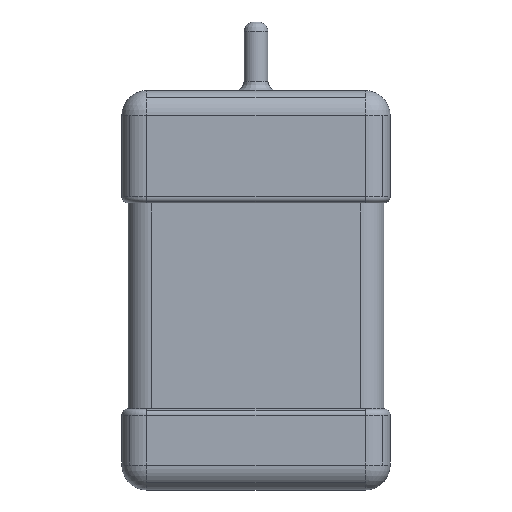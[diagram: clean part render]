
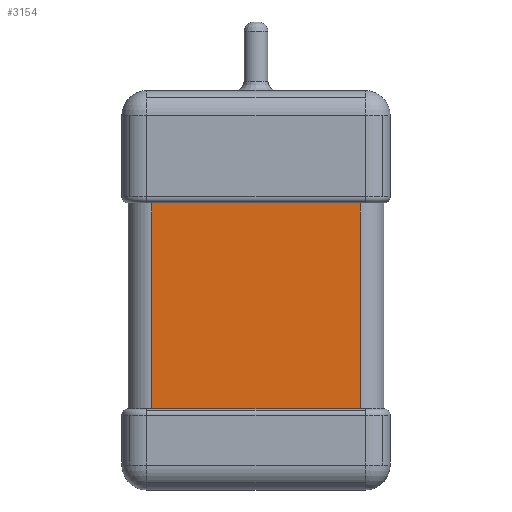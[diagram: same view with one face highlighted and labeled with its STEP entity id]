
A CAD part, front view. The second image highlights one B-rep face of the part: STEP entity #3154.
In plain terms, the highlighted planar face has unit normal (0, -1, 0).
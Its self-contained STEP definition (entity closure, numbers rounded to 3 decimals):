
#151=CARTESIAN_POINT('',(0.287,-0.047,-4.22));
#152=VERTEX_POINT('',#151);
#160=CARTESIAN_POINT('',(0.287,-0.047,-0.92));
#161=VERTEX_POINT('',#160);
#162=CARTESIAN_POINT('',(0.287,-0.047,-4.22));
#163=DIRECTION('',(0.0,0.,1.0));
#164=VECTOR('',#163,3.3);
#165=LINE('',#162,#164);
#166=EDGE_CURVE('',#152,#161,#165,.T.);
#1068=CARTESIAN_POINT('',(3.625,-0.047,-4.22));
#1069=VERTEX_POINT('',#1068);
#1076=CARTESIAN_POINT('',(3.625,-0.047,-4.22));
#1077=DIRECTION('',(-1.0,0.0,0.0));
#1078=VECTOR('',#1077,3.338);
#1079=LINE('',#1076,#1078);
#1080=EDGE_CURVE('',#1069,#152,#1079,.T.);
#1909=CARTESIAN_POINT('',(3.625,-0.047,-0.92));
#1910=VERTEX_POINT('',#1909);
#1911=CARTESIAN_POINT('',(3.625,-0.047,-0.92));
#1912=DIRECTION('',(-1.0,0.0,0.0));
#1913=VECTOR('',#1912,3.338);
#1914=LINE('',#1911,#1913);
#1915=EDGE_CURVE('',#1910,#161,#1914,.T.);
#3040=CARTESIAN_POINT('',(3.625,-0.047,-0.92));
#3041=DIRECTION('',(0.0,0.,-1.0));
#3042=VECTOR('',#3041,3.3);
#3043=LINE('',#3040,#3042);
#3044=EDGE_CURVE('',#1910,#1069,#3043,.T.);
#3143=CARTESIAN_POINT('',(4.006,-0.047,-4.22));
#3144=DIRECTION('',(0.0,-1.0,0.0));
#3145=DIRECTION('',(0.0,0.0,-1.0));
#3146=AXIS2_PLACEMENT_3D('',#3143,#3144,#3145);
#3147=PLANE('',#3146);
#3148=ORIENTED_EDGE('',*,*,#3044,.F.);
#3149=ORIENTED_EDGE('',*,*,#1915,.T.);
#3150=ORIENTED_EDGE('',*,*,#166,.F.);
#3151=ORIENTED_EDGE('',*,*,#1080,.F.);
#3152=EDGE_LOOP('',(#3148,#3149,#3150,#3151));
#3153=FACE_OUTER_BOUND('',#3152,.T.);
#3154=ADVANCED_FACE('',(#3153),#3147,.T.);
